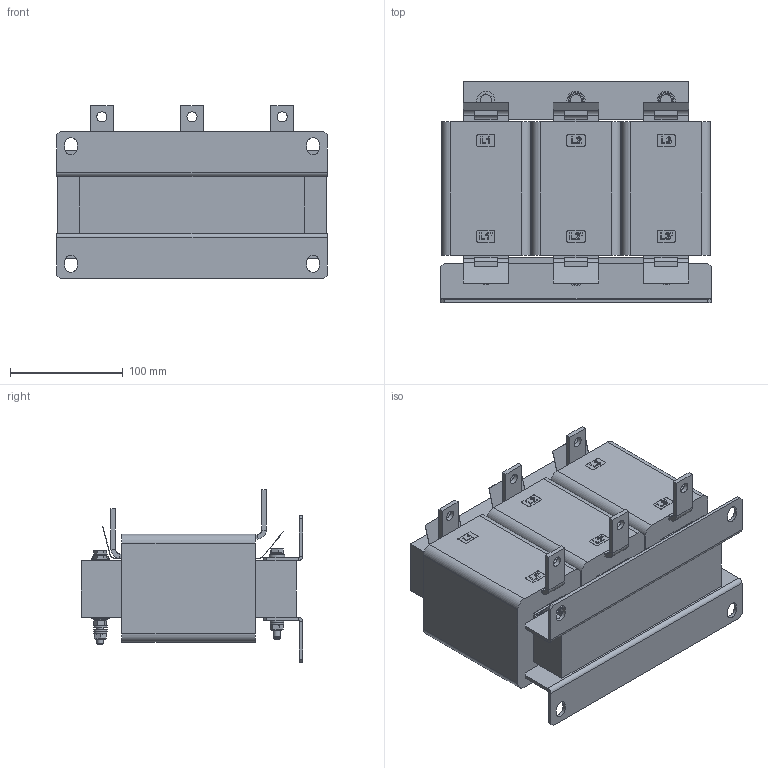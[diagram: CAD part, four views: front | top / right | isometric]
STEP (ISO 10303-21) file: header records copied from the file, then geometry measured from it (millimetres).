
FILE_DESCRIPTION(/* description */ ('raw material description'),/* implementation_level */ '2;1');
FILE_NAME(/* name */ 'P:\Construction\Filter_Marketing\RWK\RWK3044_RWK3062\RWK3044\RWK3044-120-99-E0XXX.stp',/* time_stamp */ '2018-08-27T10:25:36+02:00',/* author */ ('Erika.Jenzer'),/* organization */ ('Schaffner EMV AG'),/* preprocessor_version */ 'ST-DEVELOPER v16.5',/* originating_system */ 'Autodesk Inventor 2017',/* authorisation */ '');
FILE_SCHEMA (('AUTOMOTIVE_DESIGN { 1 0 10303 214 3 1 1 }'));
Length unit declared in the file: millimetre
Products named in the file (1): RWK3044-120-99-E0XXX
Bounding box: 240 x 196.8 x 153.55 mm (x, y, z)
Volume: 3510787.3 mm3; surface area: 305015.3 mm2
Topology: 1 solids, 13 shells, 1033 faces, 2577 edges, 1695 vertices
Faces by surface type: plane 733, cylinder 172, cone 71, bspline 50, torus 7
Full cylindrical faces by diameter (mm): 6 x19, 6.1 x6, 6.4 x14, 7.6 x5, 8.4 x3, 8.5 x4, 8.7 x6, 9 x6, 12 x12, 13 x1, 14 x5, 16 x4
Entity records: 30896 total; most frequent: CARTESIAN_POINT 6494, ORIENTED_EDGE 4858, DIRECTION 4436, EDGE_CURVE 2422, VERTEX_POINT 1662, LINE 1544, VECTOR 1544, AXIS2_PLACEMENT_3D 1446
